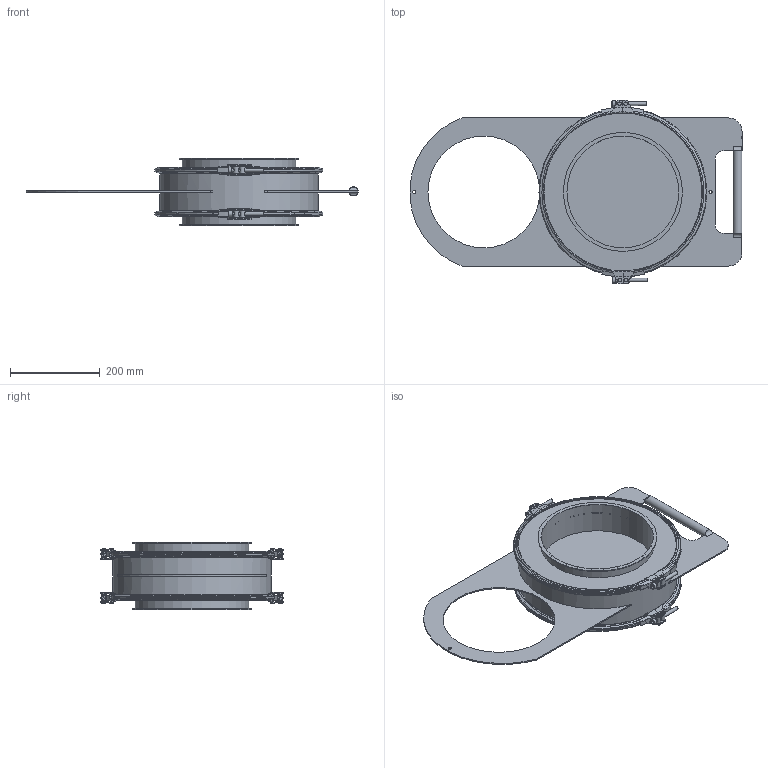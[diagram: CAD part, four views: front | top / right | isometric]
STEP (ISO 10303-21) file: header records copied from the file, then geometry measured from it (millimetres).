
FILE_DESCRIPTION((''),'2;1');
FILE_NAME('U:\Wolfgang\Marcel-3D\fertig\Kapitel 9\2521081.stp','2011-10-11T13:05:52',('iwienholt'),(''),'Autodesk Inventor 2010','Autodesk Inventor 2010','');
FILE_SCHEMA(('AUTOMOTIVE_DESIGN { 1 0 10303 214 1 1 1 1 }'));
Length unit declared in the file: millimetre
Products named in the file (10): 2521081; Rohr DN250; Schieber DN250; 3522055; 3522055-1; Verschluss b=374; Verschlussrolle; VerschlussrolleGewinde; ISO 4762 M8 x 70; 3522055-Dichtmasse
Assembly tree (17 placements, depth 3):
  2521081
    Rohr DN250
    Schieber DN250
    3522055  x2
      3522055-1
      Verschluss b=374
      Verschlussrolle
      VerschlussrolleGewinde
      ISO 4762 M8 x 70
      3522055-Dichtmasse
Bounding box: 739.41 x 408 x 150 mm (x, y, z)
Volume: 1702148.6 mm3; surface area: 1316885.5 mm2
Topology: 28 solids, 28 shells, 870 faces, 2306 edges, 1522 vertices
Faces by surface type: cylinder 269, plane 246, bspline 175, cone 144, torus 36
Full cylindrical faces by diameter (mm): 5 x16, 6 x4, 8 x20, 12 x8, 13 x4, 20 x1, 249 x3, 253 x4, 265 x1, 349 x1, 352 x2, 353 x1, 365 x1, 370 x2
Entity records: 7259 total; most frequent: CARTESIAN_POINT 2389, DIRECTION 978, ORIENTED_EDGE 890, EDGE_CURVE 445, AXIS2_PLACEMENT_3D 392, VERTEX_POINT 317, EDGE_LOOP 274, FACE_OUTER_BOUND 199
